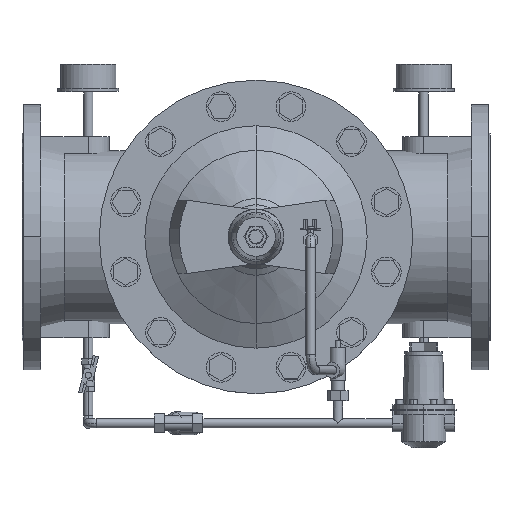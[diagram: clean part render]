
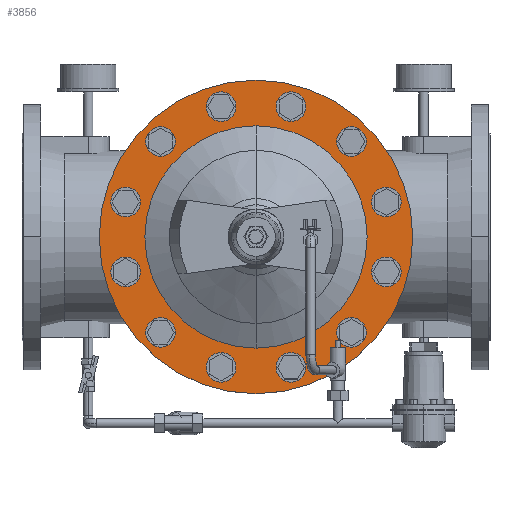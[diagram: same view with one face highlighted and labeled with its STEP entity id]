
A CAD part, top view. The second image highlights one B-rep face of the part: STEP entity #3856.
In plain terms, the highlighted planar face has unit normal (0, 0, 1).
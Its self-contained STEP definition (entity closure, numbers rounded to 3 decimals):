
#3856=ADVANCED_FACE('',(#7656,#7657),#7658,.T.);
#7656=FACE_BOUND('',#12758,.T.);
#7657=FACE_OUTER_BOUND('',#12759,.T.);
#7658=PLANE('',#12760);
#12758=EDGE_LOOP('',(#18619,#18620));
#12759=EDGE_LOOP('',(#18621,#18622));
#12760=AXIS2_PLACEMENT_3D('',#18623,#18624,#18625);
#18619=ORIENTED_EDGE('',*,*,#28196,.F.);
#18620=ORIENTED_EDGE('',*,*,#27050,.F.);
#18621=ORIENTED_EDGE('',*,*,#28197,.T.);
#18622=ORIENTED_EDGE('',*,*,#26944,.T.);
#18623=CARTESIAN_POINT('',(300.0,171.75,181.0));
#18624=DIRECTION('',(0.,0.,1.0));
#18625=DIRECTION('',(0.,1.0,0.));
#26944=EDGE_CURVE('',#31427,#31425,#31428,.T.);
#27050=EDGE_CURVE('',#31611,#31606,#31613,.T.);
#28196=EDGE_CURVE('',#31606,#31611,#33473,.T.);
#28197=EDGE_CURVE('',#31425,#31427,#33474,.T.);
#31425=VERTEX_POINT('',#38063);
#31427=VERTEX_POINT('',#38066);
#31428=CIRCLE('',#38067,201.0);
#31606=VERTEX_POINT('',#38304);
#31611=VERTEX_POINT('',#38310);
#31613=CIRCLE('',#38313,142.5);
#33473=CIRCLE('',#41039,142.5);
#33474=CIRCLE('',#41040,201.0);
#38063=CARTESIAN_POINT('',(300.0,201.0,181.0));
#38066=CARTESIAN_POINT('',(300.0,-201.0,181.0));
#38067=AXIS2_PLACEMENT_3D('',#45925,#45926,#45927);
#38304=CARTESIAN_POINT('',(300.0,142.5,181.0));
#38310=CARTESIAN_POINT('',(300.0,-142.5,181.0));
#38313=AXIS2_PLACEMENT_3D('',#46055,#46056,#46057);
#41039=AXIS2_PLACEMENT_3D('',#47335,#47336,#47337);
#41040=AXIS2_PLACEMENT_3D('',#47338,#47339,#47340);
#45925=CARTESIAN_POINT('',(300.0,0.0,181.0));
#45926=DIRECTION('',(0.,0.,1.0));
#45927=DIRECTION('',(0.,1.0,0.));
#46055=CARTESIAN_POINT('',(300.0,0.0,181.0));
#46056=DIRECTION('',(0.,0.,1.0));
#46057=DIRECTION('',(0.,1.0,0.));
#47335=CARTESIAN_POINT('',(300.0,0.0,181.0));
#47336=DIRECTION('',(0.,0.,1.0));
#47337=DIRECTION('',(0.,1.0,0.));
#47338=CARTESIAN_POINT('',(300.0,0.0,181.0));
#47339=DIRECTION('',(0.,0.,1.0));
#47340=DIRECTION('',(0.,1.0,0.));
